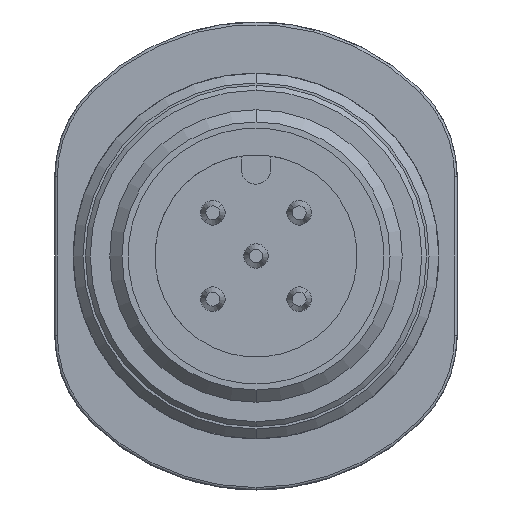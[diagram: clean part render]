
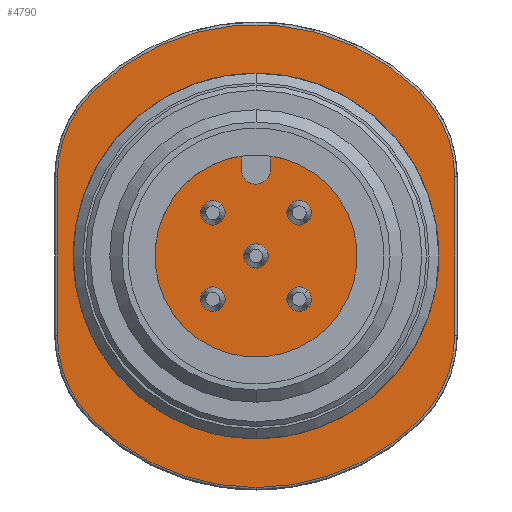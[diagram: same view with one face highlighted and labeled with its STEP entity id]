
A CAD part, left-side view. The second image highlights one B-rep face of the part: STEP entity #4790.
In plain terms, the highlighted planar face has unit normal (-1, 0, 0).
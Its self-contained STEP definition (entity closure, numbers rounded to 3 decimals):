
#344 = ORIENTED_EDGE ( 'NONE', *, *, #15055, .T. ) ;
#553 = CARTESIAN_POINT ( 'NONE',  ( 0., 0., 0. ) ) ;
#999 = VECTOR ( 'NONE', #10679, 1000. ) ;
#1129 = DIRECTION ( 'NONE',  ( 0., 0., -1. ) ) ;
#1207 = DIRECTION ( 'NONE',  ( -1., 0., 0. ) ) ;
#1531 = CARTESIAN_POINT ( 'NONE',  ( 0., 3.25, 3.255 ) ) ;
#1672 = DIRECTION ( 'NONE',  ( 0., 0., 1. ) ) ;
#2150 = EDGE_CURVE ( 'NONE', #4843, #6942, #2824, .T. ) ;
#2198 = DIRECTION ( 'NONE',  ( -1., 0., 0. ) ) ;
#2305 = ORIENTED_EDGE ( 'NONE', *, *, #6526, .T. ) ;
#2363 = DIRECTION ( 'NONE',  ( 0., 0., -1. ) ) ;
#2824 = LINE ( 'NONE', #12384, #18206 ) ;
#2907 = CARTESIAN_POINT ( 'NONE',  ( 0., -3.25, -3.255 ) ) ;
#3179 = DIRECTION ( 'NONE',  ( 1., 0., 0. ) ) ;
#3330 = DIRECTION ( 'NONE',  ( 0., 0., -1. ) ) ;
#3778 = CARTESIAN_POINT ( 'NONE',  ( 0., -6.712, -6.723 ) ) ;
#4255 = CARTESIAN_POINT ( 'NONE',  ( 0., -6.712, 6.723 ) ) ;
#4510 = VERTEX_POINT ( 'NONE', #9379 ) ;
#4710 = DIRECTION ( 'NONE',  ( 0., 0., -1. ) ) ;
#4731 = DIRECTION ( 'NONE',  ( -1., 0., 0. ) ) ;
#4790 = ADVANCED_FACE ( 'NONE', ( #10294 ), #8507, .F. ) ;
#4843 = VERTEX_POINT ( 'NONE', #15839 ) ;
#5072 = VERTEX_POINT ( 'NONE', #3778 ) ;
#5743 = LINE ( 'NONE', #14195, #999 ) ;
#5940 = ORIENTED_EDGE ( 'NONE', *, *, #21507, .T. ) ;
#6284 = EDGE_CURVE ( 'NONE', #4510, #19978, #14455, .T. ) ;
#6427 = AXIS2_PLACEMENT_3D ( 'NONE', #11934, #1207, #13731 ) ;
#6526 = EDGE_CURVE ( 'NONE', #16448, #22385, #19465, .T. ) ;
#6871 = AXIS2_PLACEMENT_3D ( 'NONE', #1531, #14046, #3330 ) ;
#6942 = VERTEX_POINT ( 'NONE', #11670 ) ;
#7533 = CIRCLE ( 'NONE', #19227, 9.5 ) ;
#7975 = ORIENTED_EDGE ( 'NONE', *, *, #15964, .T. ) ;
#8209 = CARTESIAN_POINT ( 'NONE',  ( 0., 6.712, -6.723 ) ) ;
#8374 = AXIS2_PLACEMENT_3D ( 'NONE', #19192, #3179, #15695 ) ;
#8507 = PLANE ( 'NONE',  #8374 ) ;
#8766 = AXIS2_PLACEMENT_3D ( 'NONE', #2907, #15424, #4710 ) ;
#9075 = EDGE_CURVE ( 'NONE', #19921, #5072, #20188, .T. ) ;
#9379 = CARTESIAN_POINT ( 'NONE',  ( 0., 6.712, 6.723 ) ) ;
#9780 = ORIENTED_EDGE ( 'NONE', *, *, #21876, .T. ) ;
#10294 = FACE_OUTER_BOUND ( 'NONE', #17191, .T. ) ;
#10397 = AXIS2_PLACEMENT_3D ( 'NONE', #553, #13063, #2363 ) ;
#10679 = DIRECTION ( 'NONE',  ( 0., 0., -1. ) ) ;
#11670 = CARTESIAN_POINT ( 'NONE',  ( 0., -8.15, 3.255 ) ) ;
#11853 = DIRECTION ( 'NONE',  ( -1., 0., 0. ) ) ;
#11934 = CARTESIAN_POINT ( 'NONE',  ( 0., 3.25, -3.255 ) ) ;
#12309 = CIRCLE ( 'NONE', #14441, 9.5 ) ;
#12316 = CARTESIAN_POINT ( 'NONE',  ( 0., 8.15, 3.255 ) ) ;
#12384 = CARTESIAN_POINT ( 'NONE',  ( 0., -8.15, 3.255 ) ) ;
#12864 = VERTEX_POINT ( 'NONE', #4255 ) ;
#12897 = CARTESIAN_POINT ( 'NONE',  ( 0., -3.25, 3.255 ) ) ;
#13063 = DIRECTION ( 'NONE',  ( -1., 0., 0. ) ) ;
#13730 = AXIS2_PLACEMENT_3D ( 'NONE', #12897, #2198, #14700 ) ;
#13731 = DIRECTION ( 'NONE',  ( 0., 0., -1. ) ) ;
#14046 = DIRECTION ( 'NONE',  ( -1., 0., 0. ) ) ;
#14195 = CARTESIAN_POINT ( 'NONE',  ( 0., 8.15, -3.255 ) ) ;
#14441 = AXIS2_PLACEMENT_3D ( 'NONE', #22539, #11853, #1129 ) ;
#14455 = CIRCLE ( 'NONE', #6871, 4.9 ) ;
#14700 = DIRECTION ( 'NONE',  ( 0., 0., -1. ) ) ;
#15055 = EDGE_CURVE ( 'NONE', #6942, #12864, #17492, .T. ) ;
#15424 = DIRECTION ( 'NONE',  ( -1., 0., 0. ) ) ;
#15444 = CARTESIAN_POINT ( 'NONE',  ( 0., 0., 0. ) ) ;
#15657 = CIRCLE ( 'NONE', #8766, 4.9 ) ;
#15695 = DIRECTION ( 'NONE',  ( 0., 0., -1. ) ) ;
#15839 = CARTESIAN_POINT ( 'NONE',  ( 0., -8.15, -3.255 ) ) ;
#15964 = EDGE_CURVE ( 'NONE', #19978, #16448, #5743, .T. ) ;
#16448 = VERTEX_POINT ( 'NONE', #17832 ) ;
#17191 = EDGE_LOOP ( 'NONE', ( #20381, #344, #19342, #21950, #7975, #2305, #5940, #20479, #9780 ) ) ;
#17235 = DIRECTION ( 'NONE',  ( 0., 0., -1. ) ) ;
#17492 = CIRCLE ( 'NONE', #13730, 4.9 ) ;
#17832 = CARTESIAN_POINT ( 'NONE',  ( 0., 8.15, -3.255 ) ) ;
#18206 = VECTOR ( 'NONE', #1672, 1000. ) ;
#19192 = CARTESIAN_POINT ( 'NONE',  ( 0., 0., 0. ) ) ;
#19227 = AXIS2_PLACEMENT_3D ( 'NONE', #15444, #4731, #17235 ) ;
#19342 = ORIENTED_EDGE ( 'NONE', *, *, #21505, .T. ) ;
#19465 = CIRCLE ( 'NONE', #6427, 4.9 ) ;
#19921 = VERTEX_POINT ( 'NONE', #22784 ) ;
#19978 = VERTEX_POINT ( 'NONE', #12316 ) ;
#20188 = CIRCLE ( 'NONE', #10397, 9.5 ) ;
#20381 = ORIENTED_EDGE ( 'NONE', *, *, #2150, .T. ) ;
#20479 = ORIENTED_EDGE ( 'NONE', *, *, #9075, .T. ) ;
#21505 = EDGE_CURVE ( 'NONE', #12864, #4510, #12309, .T. ) ;
#21507 = EDGE_CURVE ( 'NONE', #22385, #19921, #7533, .T. ) ;
#21876 = EDGE_CURVE ( 'NONE', #5072, #4843, #15657, .T. ) ;
#21950 = ORIENTED_EDGE ( 'NONE', *, *, #6284, .T. ) ;
#22385 = VERTEX_POINT ( 'NONE', #8209 ) ;
#22539 = CARTESIAN_POINT ( 'NONE',  ( 0., 0., 0. ) ) ;
#22784 = CARTESIAN_POINT ( 'NONE',  ( 0., 0., -9.5 ) ) ;
